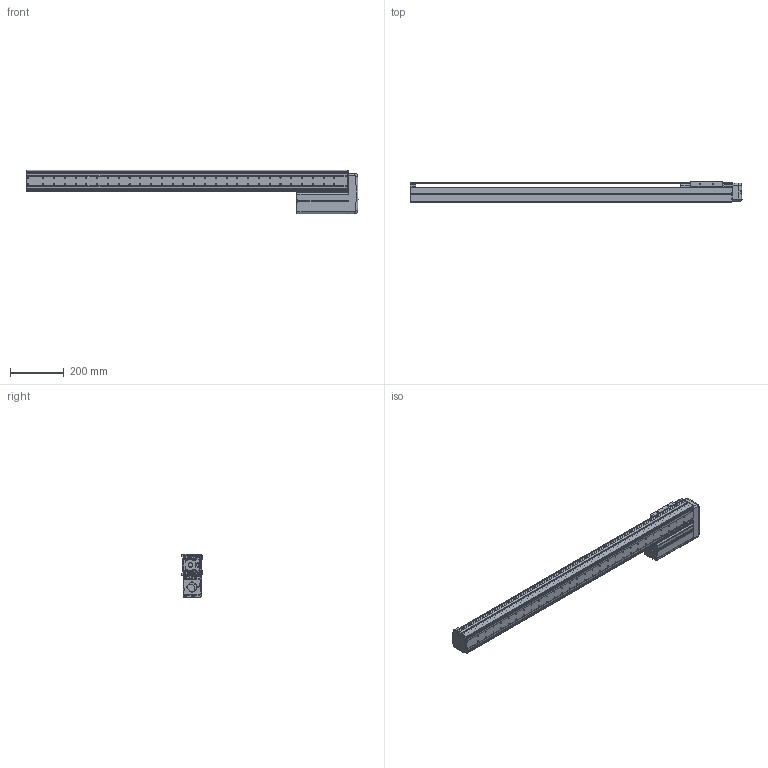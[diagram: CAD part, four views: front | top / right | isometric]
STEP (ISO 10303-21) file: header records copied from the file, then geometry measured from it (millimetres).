
FILE_DESCRIPTION((''),'2;1');
FILE_NAME('BE10E-UL-M_B-A0_IGS_PRT','2017-06-17T',(' '),(''),'PRO/ENGINEER BY PARAMETRIC TECHNOLOGY CORPORATION, 2015030','PRO/ENGINEER BY PARAMETRIC TECHNOLOGY CORPORATION, 2015030','');
FILE_SCHEMA(('CONFIG_CONTROL_DESIGN'));
Length unit declared in the file: millimetre
Products named in the file (1): BE10E-UL-M_B-A0_IGS_PRT
Bounding box: 1231.42 x 75 x 160 mm (x, y, z)
Volume: 1716729.6 mm3; surface area: 1166772.1 mm2
Topology: 2 solids, 135 shells, 1892 faces, 5121 edges, 3345 vertices
Faces by surface type: cylinder 937, plane 727, cone 81, torus 69, sphere 44, bspline 34
Entity records: 62089 total; most frequent: CARTESIAN_POINT 13229, DIRECTION 10598, ORIENTED_EDGE 9648, EDGE_CURVE 5081, AXIS2_PLACEMENT_3D 3995, VERTEX_POINT 3345, VECTOR 2608, LINE 2608
